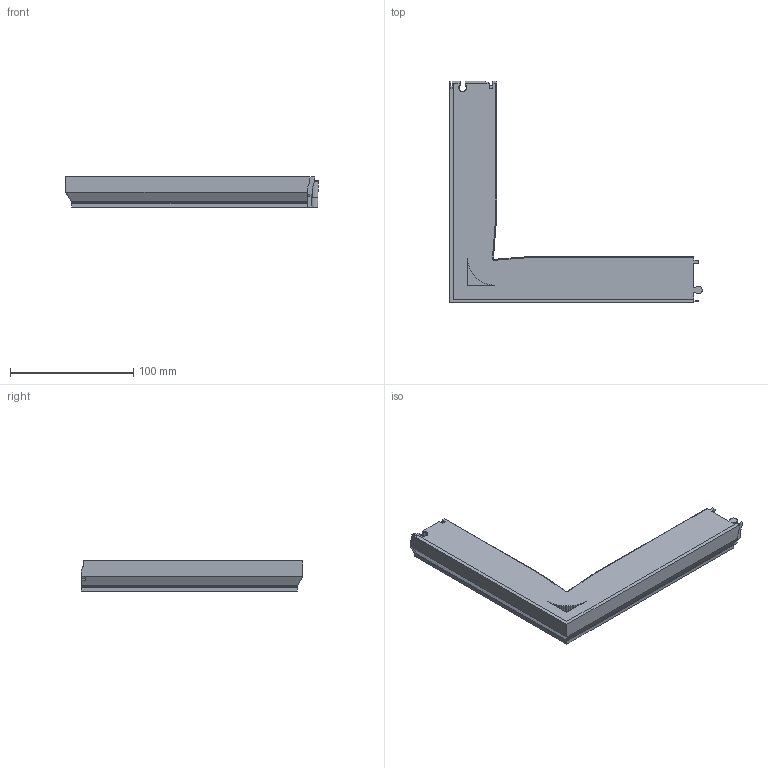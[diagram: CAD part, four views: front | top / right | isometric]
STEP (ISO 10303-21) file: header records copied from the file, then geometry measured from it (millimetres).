
FILE_DESCRIPTION(('Open CASCADE Model'),'2;1');
FILE_NAME('Open CASCADE Shape Model','2026-10-23T12:29:38',('Author'),( 'Open CASCADE'),'Open CASCADE STEP processor 8.0','build123d', 'Unknown');
FILE_SCHEMA(('AUTOMOTIVE_DESIGN { 1 0 10303 214 1 1 1 1 }'));
Products named in the file (1): SOLID
Bounding box: 205.18 x 180.4 x 24.5 mm (x, y, z)
Volume: 189098.4 mm3; surface area: 51242.2 mm2
Topology: 1 solids, 1 shells, 2412 faces, 5214 edges, 2805 vertices
Faces by surface type: bspline 1918, plane 488, cone 6
Entity records: 125618 total; most frequent: CARTESIAN_POINT 32846, DIRECTION 11726, LINE 10716, VECTOR 10716, ORIENTED_EDGE 10428, PCURVE 10428, DEFINITIONAL_REPRESENTATION 10428, EDGE_CURVE 5214
